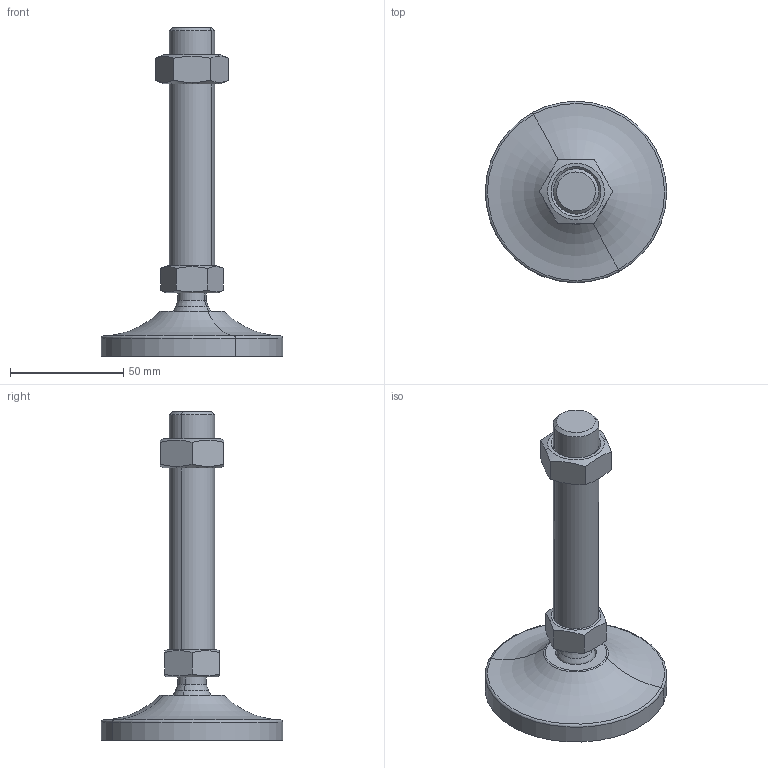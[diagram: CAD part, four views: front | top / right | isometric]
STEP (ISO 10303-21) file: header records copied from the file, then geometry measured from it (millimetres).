
FILE_DESCRIPTION(('CATIA V5 STEP Exchange'),'2;1');
FILE_NAME('C:\Users\ALI OZGUN\Desktop\alhan\saplama2\560802615.stp','2017-09-21T10:34:28+00:00',('none'),('none'),'CATIA Version 5 Release 21 GA (IN-10)','CATIA V5 STEP AP203','none');
FILE_SCHEMA(('CONFIG_CONTROL_DESIGN'));
Length unit declared in the file: millimetre
Products named in the file (1): 560802615
Bounding box: 79.98 x 79.98 x 145 mm (x, y, z)
Volume: 87862.7 mm3; surface area: 25955.1 mm2
Topology: 3 solids, 3 shells, 60 faces, 136 edges, 83 vertices
Faces by surface type: plane 20, cone 16, cylinder 14, torus 6, revolution 2, sphere 2
Entity records: 1873 total; most frequent: CARTESIAN_POINT 631, ORIENTED_EDGE 268, DIRECTION 186, EDGE_CURVE 134, AXIS2_PLACEMENT_3D 100, VERTEX_POINT 83, EDGE_LOOP 67, ADVANCED_FACE 60
